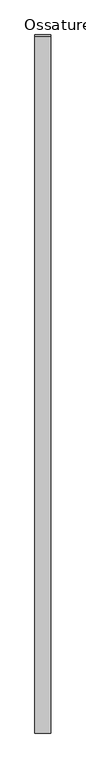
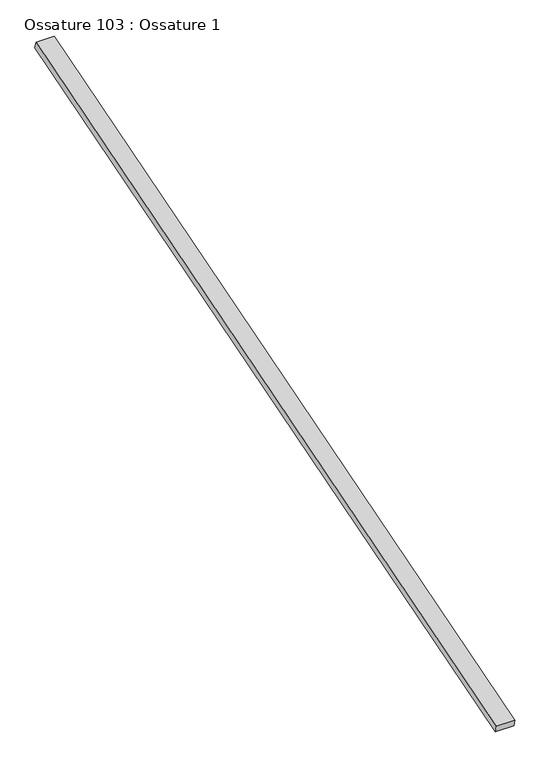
"""IFC4 building model written with IfcOpenShell, lengths in millimetres: beam geometry, Ossature 103 : Ossature 1."""

from ifc_helpers import new_model, si_unit, frame, origin, place, context, project, spatial, polyline, outline, extrude, source, transform, mapped, element, save


def ossature_103_ossature_1_73c29af8(model_context):
    return source(origin(), model_context, "Body", "SweptSolid", [
        extrude(outline(polyline([(0.0, 0.0), (0.0, -4543.0299679), (-100.0, -4543.0299679), (-100.0, 0.0), (0.0, 0.0)])), frame((24809.0466393, -833.3913565, 8153.6336115), z_axis=(0.0, -0.28734788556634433, 0.9578262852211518), x_axis=(-1.0, 0.0, 0.0)), (0.0, 0.0, 1.0), 40.0),
    ])


if __name__ == "__main__":
    model = new_model("IFC4")
    model_context = context("Model", 3, world=origin())
    ifc_project = project(units=[si_unit("LENGTHUNIT", "METRE", prefix="MILLI")], contexts=[model_context])
    site = spatial("IfcSite", under=ifc_project)
    building = spatial("IfcBuilding", under=site)
    placement = place(None, origin())
    ossature_103_ossature_1_shape = ossature_103_ossature_1_73c29af8(model_context)
    element("IfcBeam", 1, ObjectType="Ossature 103 : Ossature 1", at=placement, inside=building, context=model_context, shape_type="MappedRepresentation", body=[
        mapped(ossature_103_ossature_1_shape, transform((0.0, 0.0, 0.0), x_axis=(1.0, 0.0, 0.0), y_axis=(0.0, 1.0, 0.0), z_axis=(0.0, 0.0, 1.0))),
    ])
    save(model, "model.ifc")
